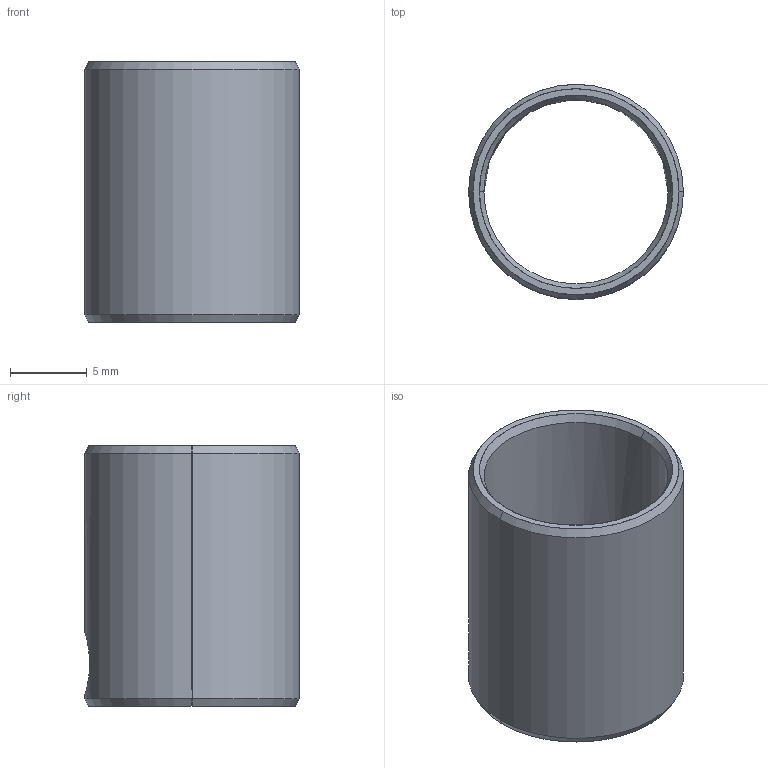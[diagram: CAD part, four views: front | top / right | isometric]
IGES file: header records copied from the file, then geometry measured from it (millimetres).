
Start section: SolidWorks IGES file using analytic representation for surfaces
Global section: file name: X:\11_SW2020-Inv2020\00_全2021-11新製品まで\s\STS-12S-SUS\sts-12s-sus.IGS; native system: SolidWorks 2020; preprocessor: SolidWorks 2020; author: ImaoCorp; date: 211025.133705; units: millimetre
Bounding box: 14 x 14 x 17 mm (x, y, z)
Surface area: 1421.2 mm2 (no closed solid volume)
Topology: 0 solids, 0 shells, 16 faces, 308 edges, 308 vertices
Faces by surface type: revolution 14, bspline 2
